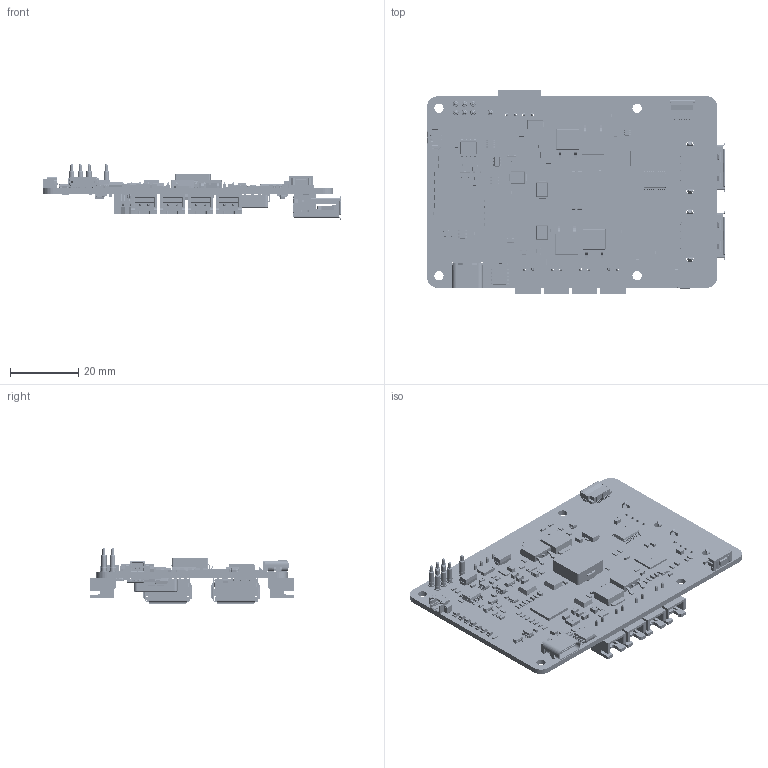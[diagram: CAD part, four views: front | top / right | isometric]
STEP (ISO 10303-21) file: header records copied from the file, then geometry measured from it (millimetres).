
FILE_DESCRIPTION(('KiCad electronic assembly'),'2;1');
FILE_NAME('UPSv6.step','2026-01-08T15:35:00',('Pcbnew'),('Kicad'), 'Open CASCADE STEP processor 7.7','KiCad to STEP converter','Unknown' );
FILE_SCHEMA(('AUTOMOTIVE_DESIGN { 1 0 10303 214 1 1 1 1 }'));
Length unit declared in the file: millimetre
Products named in the file (78): UPSv6 1; C_0603_1608Metric; R_0603_1608Metric; LED_0805_2012Metric; SMB_L4.3-W3.6-LS5.4-BI; C_0805_2012Metric; Hirose_FH12-10S-0.5SH_1x10-1MP_P0.50mm_Horizontal; Hirose_FH12_xxS_0_5SH_Parametric_v0_1; TSOT-23-6; TSOT_23_6; R_1206_3216Metric; R_0805_2012Metric; Crystal_SMD_3225-4Pin_3.2x2.5mm; SOT-363_SC-70-6; SOT_363_SC_70_6; SOT-23; SOT_23; QFN-64-1EP_8x8mm_P0.4mm_EP6.5x6.5mm; QFN_64_1EP_8x8mm_P04mm_EP65x65mm; STM; EasyEDA PCB Model~pYXK; CH224K; EasyEDA PCB Model~fyYy; TO-252-2L-3P_L6.6-W6.1-H2.3-LS10.1-P4.6; SOT-89-3; CQ assembly; TYPEC; EasyEDA PCB Model~02dA; SOT-23-6; SOT_23_6; XH_2025-06-04; PCBModel; SOIC-8_3.9x4.9mm_P1.27mm; SOIC_8_39x49mm_P127mm; Pigo_pin; EasyEDA PCB Model~PiHc; IND-SMD_L11.5-W10.0-H4.0; SOT-23-8; SOT_23_8; PQFN-8_L3.0-W3.0-H1.0-P0.67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
Assembly tree (215 placements, depth 3):
  UPSv6 1
    C_0603_1608Metric  x31
      C_0603_1608Metric
    R_0603_1608Metric  x56
      R_0603_1608Metric
    LED_0805_2012Metric  x7
      LED_0805_2012Metric
    SMB_L4.3-W3.6-LS5.4-BI  x3
      SMB_L4.3-W3.6-LS5.4-BI
    C_0805_2012Metric  x15
      C_0805_2012Metric
    Hirose_FH12-10S-0.5SH_1x10-1MP_P0.50mm_Horizontal
      Hirose_FH12_xxS_0_5SH_Parametric_v0_1
    TSOT-23-6
      TSOT_23_6
    R_1206_3216Metric  x4
      R_1206_3216Metric
    R_0805_2012Metric  x5
      R_0805_2012Metric
    Crystal_SMD_3225-4Pin_3.2x2.5mm
      Crystal_SMD_3225-4Pin_3.2x2.5mm
    SOT-363_SC-70-6
      SOT_363_SC_70_6
    SOT-23  x5
      SOT_23
    QFN-64-1EP_8x8mm_P0.4mm_EP6.5x6.5mm
      QFN_64_1EP_8x8mm_P04mm_EP65x65mm
    STM
      EasyEDA PCB Model~pYXK
    CH224K
      EasyEDA PCB Model~fyYy
    TO-252-2L-3P_L6.6-W6.1-H2.3-LS10.1-P4.6  x4
      TO-252-2L-3P_L6.6-W6.1-H2.3-LS10.1-P4.6
    SOT-89-3
      CQ assembly
    TYPEC
      EasyEDA PCB Model~02dA
    SOT-23-6  x2
      SOT_23_6
    XH_2025-06-04
      PCBModel
    SOIC-8_3.9x4.9mm_P1.27mm  x2
      SOIC_8_39x49mm_P127mm
    Pigo_pin  x7
      EasyEDA PCB Model~PiHc
    IND-SMD_L11.5-W10.0-H4.0
      IND-SMD_L11.5-W10.0-H4.0
    SOT-23-8
      SOT_23_8
    PQFN-8_L3.0-W3.0-H1.0-P0.67
      PQFN-8_L3.0-W3.0-H1.0-P0.67
    D_SMA  x2
      D_SMA
    BTN
      EasyEDA PCB Model~2gmM
    Fuse
      EasyEDA PCB Model~WOUe
    TSSOP-20_4.4x6.5mm_P0.65mm
      TSSOP_20_44x65mm_P065mm
    LM25085
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Bounding box: 87.24 x 59.71 x 16.31 mm (x, y, z)
Volume: 12252.3 mm3; surface area: 22418.4 mm2
Topology: 254 solids, 254 shells, 18246 faces, 48669 edges, 31610 vertices
Faces by surface type: plane 11300, bspline 3525, cylinder 3206, sphere 83, torus 60, cone 48, revolution 24
Full cylindrical faces by diameter (mm): 0.3 x53, 0.5 x2, 0.6 x2, 0.65 x2, 0.7 x1, 0.862 x7, 0.9 x12, 0.92 x8, 2.3 x4, 2.7 x4
Entity records: 336418 total; most frequent: CARTESIAN_POINT 86736, ORIENTED_EDGE 50490, DIRECTION 39628, EDGE_CURVE 25245, LINE 18604, VECTOR 18604, VERTEX_POINT 16398, AXIS2_PLACEMENT_3D 10502
